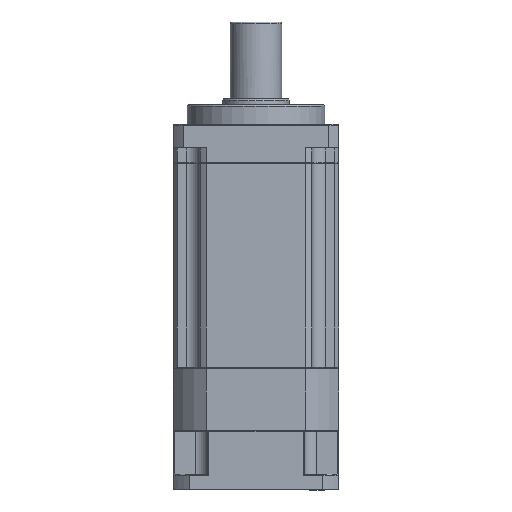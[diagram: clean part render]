
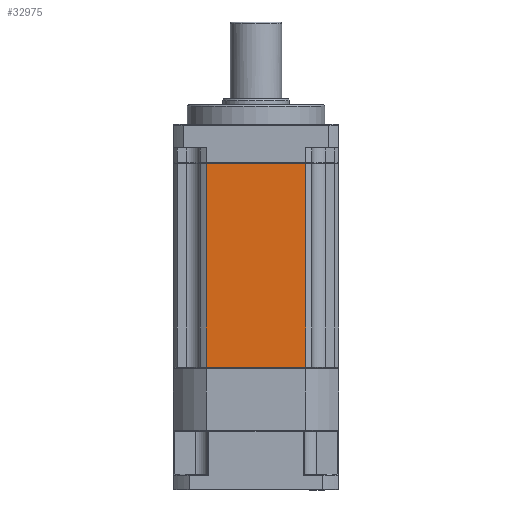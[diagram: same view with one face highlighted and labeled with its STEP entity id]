
A CAD part, front view. The second image highlights one B-rep face of the part: STEP entity #32975.
In plain terms, the highlighted planar face has unit normal (0, -1, 0).
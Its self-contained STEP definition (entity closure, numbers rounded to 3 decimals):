
#498 = VERTEX_POINT ( 'NONE', #56999 ) ;
#10234 = ORIENTED_EDGE ( 'NONE', *, *, #42190, .F. ) ;
#19676 = CARTESIAN_POINT ( 'NONE',  ( -0.856, -18.732, 18.354 ) ) ;
#20218 = EDGE_LOOP ( 'NONE', ( #39239, #10234, #23214, #37700 ) ) ;
#21033 = LINE ( 'NONE', #58839, #38575 ) ;
#23214 = ORIENTED_EDGE ( 'NONE', *, *, #31614, .F. ) ;
#26376 = VECTOR ( 'NONE', #76625, 1000. ) ;
#27937 = CARTESIAN_POINT ( 'NONE',  ( -5.914, -18.732, 70.104 ) ) ;
#28410 = CARTESIAN_POINT ( 'NONE',  ( -32.711, -18.732, 18.104 ) ) ;
#31614 = EDGE_CURVE ( 'NONE', #498, #61698, #21033, .T. ) ;
#32975 = ADVANCED_FACE ( 'NONE', ( #45740 ), #67752, .F. ) ;
#35058 = DIRECTION ( 'NONE',  ( -1., 0., 0. ) ) ;
#37700 = ORIENTED_EDGE ( 'NONE', *, *, #72895, .F. ) ;
#38400 = VECTOR ( 'NONE', #48838, 1000. ) ;
#38575 = VECTOR ( 'NONE', #79991, 1000. ) ;
#39239 = ORIENTED_EDGE ( 'NONE', *, *, #63460, .F. ) ;
#39602 = DIRECTION ( 'NONE',  ( -1., 0., 0. ) ) ;
#42190 = EDGE_CURVE ( 'NONE', #61698, #49916, #56014, .T. ) ;
#45740 = FACE_OUTER_BOUND ( 'NONE', #20218, .T. ) ;
#48838 = DIRECTION ( 'NONE',  ( 0., 0., -1. ) ) ;
#49916 = VERTEX_POINT ( 'NONE', #75878 ) ;
#50733 = VERTEX_POINT ( 'NONE', #73032 ) ;
#53770 = AXIS2_PLACEMENT_3D ( 'NONE', #28410, #74731, #35058 ) ;
#56014 = LINE ( 'NONE', #68563, #38400 ) ;
#56999 = CARTESIAN_POINT ( 'NONE',  ( -31.153, -18.732, 70.104 ) ) ;
#58839 = CARTESIAN_POINT ( 'NONE',  ( -32.711, -18.732, 70.104 ) ) ;
#61575 = LINE ( 'NONE', #63266, #26376 ) ;
#61698 = VERTEX_POINT ( 'NONE', #27937 ) ;
#63266 = CARTESIAN_POINT ( 'NONE',  ( -31.153, -18.732, 18.104 ) ) ;
#63460 = EDGE_CURVE ( 'NONE', #49916, #50733, #70307, .T. ) ;
#66149 = VECTOR ( 'NONE', #39602, 1000. ) ;
#67752 = PLANE ( 'NONE',  #53770 ) ;
#68563 = CARTESIAN_POINT ( 'NONE',  ( -5.914, -18.732, 18.104 ) ) ;
#70307 = LINE ( 'NONE', #19676, #66149 ) ;
#72895 = EDGE_CURVE ( 'NONE', #50733, #498, #61575, .T. ) ;
#73032 = CARTESIAN_POINT ( 'NONE',  ( -31.153, -18.732, 18.354 ) ) ;
#74731 = DIRECTION ( 'NONE',  ( 0., 1., 0. ) ) ;
#75878 = CARTESIAN_POINT ( 'NONE',  ( -5.914, -18.732, 18.354 ) ) ;
#76625 = DIRECTION ( 'NONE',  ( 0., 0., 1. ) ) ;
#79991 = DIRECTION ( 'NONE',  ( 1., 0., 0. ) ) ;
